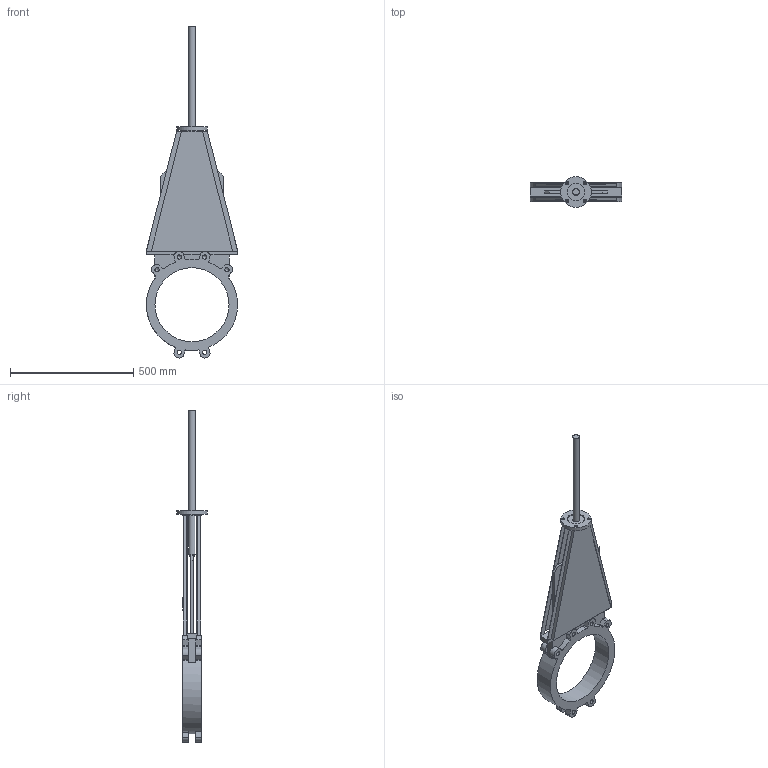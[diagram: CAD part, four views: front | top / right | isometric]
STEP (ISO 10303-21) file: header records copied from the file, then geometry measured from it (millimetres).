
FILE_DESCRIPTION(('STEP AP203'), '1');
FILE_NAME('K51GVA_DN300', '', ('UNSPECIFIED'), ('UNSPECIFIED'), 'ASCON STEP Converter 1.6', 'ASCON Math Kernel', '');
FILE_SCHEMA(('CONFIG_CONTROL_DESIGN'));
Length unit declared in the file: millimetre
Bounding box: 370 x 125 x 1344.7 mm (x, y, z)
Volume: 5671887.8 mm3; surface area: 1122182.2 mm2
Topology: 1 solids, 1 shells, 199 faces, 562 edges, 365 vertices
Faces by surface type: plane 124, cylinder 66, cone 9
Full cylindrical faces by diameter (mm): 12 x4, 17.294 x12, 28 x2, 70 x1, 80 x1, 125 x1, 300 x1
Entity records: 7886 total; most frequent: DIRECTION 1088, CARTESIAN_POINT 1080, ORIENTED_EDGE 1046, EDGE_CURVE 523, AXIS2_PLACEMENT_3D 365, LINE 358, VECTOR 358, VERTEX_POINT 357
